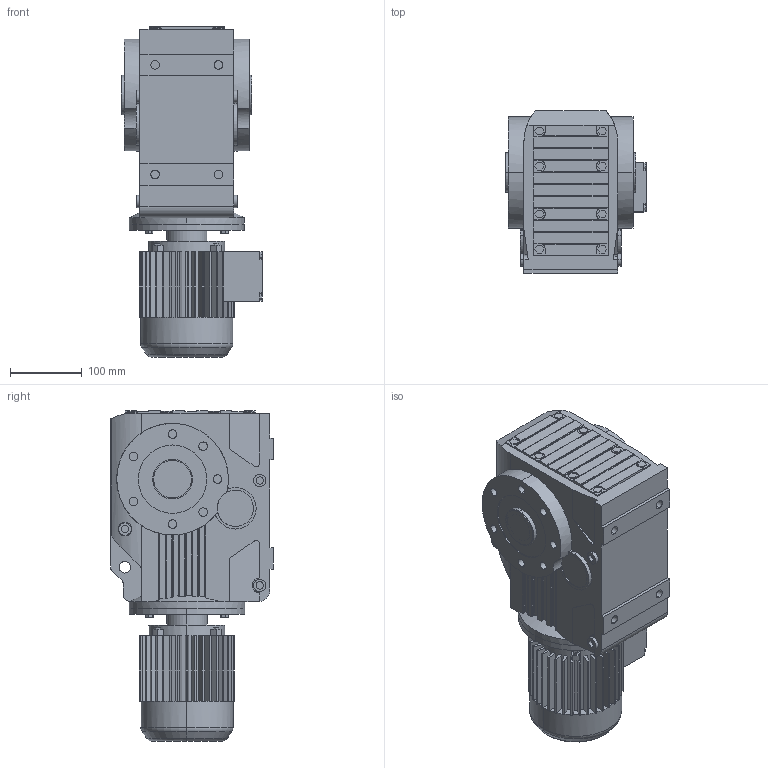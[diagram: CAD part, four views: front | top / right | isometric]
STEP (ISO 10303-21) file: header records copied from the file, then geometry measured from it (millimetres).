
FILE_DESCRIPTION(('Open CASCADE Model'),'2;1');
FILE_NAME('Open CASCADE Shape Model','2021-07-20T14:10:33',('Author'),( 'Open CASCADE'),'Open CASCADE STEP processor 6.3','Open CASCADE 6.3' ,'Unknown');
FILE_SCHEMA(('AUTOMOTIVE_DESIGN_CC2 { 1 2 10303 214 -1 1 5 4 }'));
Length unit declared in the file: millimetre
Products named in the file (4): 1_KA67DR63-A; KA37‵107_67.step; 萇儂_160-DR63-185-240-132-105.step; す瑩諾陑粣K_67.step
Assembly tree (3 placements, depth 2):
  1_KA67DR63-A
    KA37‵107_67.step
    萇儂_160-DR63-185-240-132-105.step
    す瑩諾陑粣K_67.step
Bounding box: 196.4 x 226 x 459 mm (x, y, z)
Volume: 10070438.9 mm3; surface area: 587222 mm2
Topology: 3 solids, 3 shells, 848 faces, 2210 edges, 1437 vertices
Faces by surface type: plane 562, cylinder 276, cone 6, torus 4
Entity records: 62907 total; most frequent: CARTESIAN_POINT 21434, DIRECTION 6953, ORIENTED_EDGE 4420, PCURVE 4420, DEFINITIONAL_REPRESENTATION 4420, LINE 3641, VECTOR 3641, EDGE_CURVE 2210
